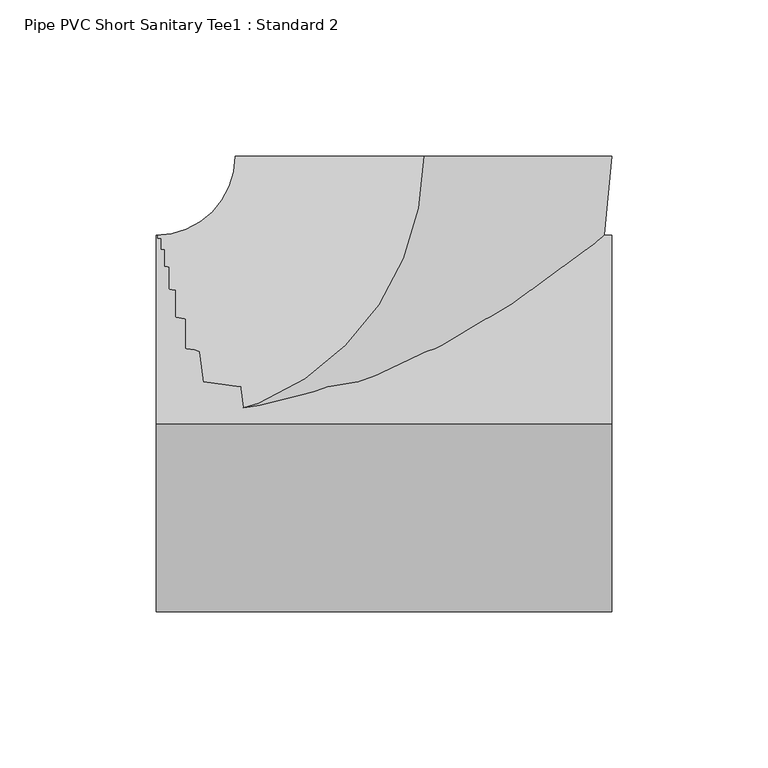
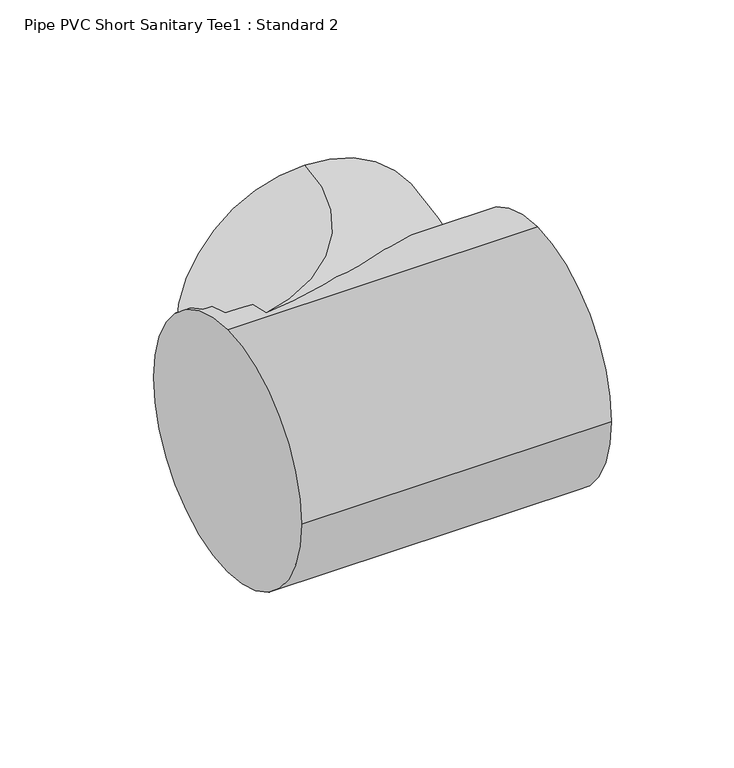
"""IFC4 building model written with IfcOpenShell, lengths in millimetres: pipe fitting geometry, Pipe PVC Short Sanitary Tee1 : Standard 2."""

import ifcopenshell
import ifcopenshell.guid

model = None  # the IFC model being written
_history = None  # IfcOwnerHistory: only IFC2X3 demands one
_inside = {}  # id of a spatial element -> (the spatial element, [elements in it])
_under = {}  # id of a project, library or spatial element -> (it, [spatial elements below it])
_declared = {}  # id of a project -> (the project, [libraries it declares])
_typed = {}  # id of a type object -> (the type object, [elements of that type])
_made_of = {}  # id of a material, layer set ... -> (it, [elements and type objects made of it])


def new_model(schema):
    """Start an empty IFC model of exactly this schema.

    Asked for "IFC4X3", IfcOpenShell would pick the latest addendum, in which some entities
    have other attributes; the version numbers below select the first issue.
    IFC2X3 requires an IfcOwnerHistory on every rooted entity: one is made here for all.
    """
    global model, _history
    if schema == "IFC4X3":
        model = ifcopenshell.file(schema_version=(4, 3, 0, 0))
    else:
        model = ifcopenshell.file(schema=schema)
    _inside.clear()
    _under.clear()
    _declared.clear()
    _typed.clear()
    _made_of.clear()
    _history = None
    if model.schema == "IFC2X3":
        org = make("IfcOrganization", Name="unknown")
        user = make(
            "IfcPersonAndOrganization",
            ThePerson=make("IfcPerson", FamilyName="unknown"),
            TheOrganization=org,
        )
        app = make(
            "IfcApplication",
            ApplicationDeveloper=org,
            Version="unknown",
            ApplicationFullName="unknown",
            ApplicationIdentifier="unknown",
        )
        _history = make(
            "IfcOwnerHistory",
            OwningUser=user,
            OwningApplication=app,
            ChangeAction="ADDED",
            CreationDate=0,
        )
    return model


def make(cls, **values):
    """One entity of the class cls with the attributes given. An attribute that is None is left unset."""
    return model.create_entity(
        cls, **{name: value for name, value in values.items() if value is not None}
    )


def rooted(cls, **values):
    """An entity with a GlobalId (a new one), such as an element, a storey or a relation."""
    return make(cls, GlobalId=ifcopenshell.guid.new(), OwnerHistory=_history, **values)


def si_unit(unit_type, name, prefix=None):
    """IfcSIUnit, for example si_unit("LENGTHUNIT", "METRE", prefix="MILLI")."""
    return make("IfcSIUnit", UnitType=unit_type, Prefix=prefix, Name=name)


def assignment(units):
    """IfcUnitAssignment: the units of a project."""
    return None if units is None else make("IfcUnitAssignment", Units=units)


def point(xyz):
    """IfcCartesianPoint."""
    return None if xyz is None else make("IfcCartesianPoint", Coordinates=xyz)


def direction(xyz):
    """IfcDirection."""
    return None if xyz is None else make("IfcDirection", DirectionRatios=xyz)


def frame(location, z_axis=None, x_axis=None):
    """IfcAxis2Placement3D, a coordinate frame: its origin and axes. An axis left out is left unset."""
    return make(
        "IfcAxis2Placement3D",
        Location=point(location),
        Axis=direction(z_axis),
        RefDirection=direction(x_axis),
    )


def frame_2d(location, x_axis=None):
    """IfcAxis2Placement2D, a coordinate frame in the plane: its origin and x axis."""
    return make(
        "IfcAxis2Placement2D", Location=point(location), RefDirection=direction(x_axis)
    )


def origin():
    """The frame at (0, 0, 0) with its axes left unset."""
    return frame((0.0, 0.0, 0.0))


def origin_2d():
    """The frame at (0, 0) in the plane with its x axis left unset."""
    return frame_2d((0.0, 0.0))


def place(relative_to, where):
    """IfcLocalPlacement: puts the frame where relative to a parent placement (None: the world)."""
    return make(
        "IfcLocalPlacement", PlacementRelTo=relative_to, RelativePlacement=where
    )


def context(
    kind, dimensions, precision=None, world=None, true_north=None, identifier=None
):
    """IfcGeometricRepresentationContext, for example the 3D "Model" context."""
    return make(
        "IfcGeometricRepresentationContext",
        ContextIdentifier=identifier,
        ContextType=kind,
        CoordinateSpaceDimension=dimensions,
        Precision=precision,
        WorldCoordinateSystem=world,
        TrueNorth=true_north,
    )


def project(units=None, contexts=None):
    """IfcProject with its units and contexts."""
    return rooted(
        "IfcProject",
        Name="project",
        RepresentationContexts=contexts,
        UnitsInContext=assignment(units),
    )


def spatial(cls, under=None, at=None, **own):
    """A site, building, storey or space (cls), placed at a placement, below another one or the project."""
    s = rooted(cls, ObjectPlacement=at, **own)
    if under is not None:
        _under.setdefault(under.id(), (under, []))[1].append(s)
    return s


def circle_curve(where, radius):
    """IfcCircle in the frame where."""
    return make("IfcCircle", Position=where, Radius=radius)


def ellipse_curve(where, semi_axis1, semi_axis2):
    """IfcEllipse in the frame where."""
    return make(
        "IfcEllipse", Position=where, SemiAxis1=semi_axis1, SemiAxis2=semi_axis2
    )


def trimmed(basis, trim1, trim2, sense, master):
    """IfcTrimmedCurve: the piece of a basis curve between two trims."""
    return make(
        "IfcTrimmedCurve",
        BasisCurve=basis,
        Trim1=trim1,
        Trim2=trim2,
        SenseAgreement=sense,
        MasterRepresentation=master,
    )


def segment(curve, same_sense, transition):
    """IfcCompositeCurveSegment."""
    return make(
        "IfcCompositeCurveSegment",
        Transition=transition,
        SameSense=same_sense,
        ParentCurve=curve,
    )


def composite_curve(segments, self_intersect=None):
    """IfcCompositeCurve: segments joined end to end."""
    return make("IfcCompositeCurve", Segments=segments, SelfIntersect=self_intersect)


def outline(outer, holes=None, kind="AREA"):
    """IfcArbitraryClosedProfileDef: a profile drawn as a closed curve; with holes, ...WithVoids."""
    if holes is None:
        return make("IfcArbitraryClosedProfileDef", ProfileType=kind, OuterCurve=outer)
    return make(
        "IfcArbitraryProfileDefWithVoids",
        ProfileType=kind,
        OuterCurve=outer,
        InnerCurves=holes,
    )


def extrude(swept, where, along, depth):
    """IfcExtrudedAreaSolid: the profile swept, set in the frame where, extruded along a direction by depth."""
    return make(
        "IfcExtrudedAreaSolid",
        SweptArea=swept,
        Position=where,
        ExtrudedDirection=direction(along),
        Depth=depth,
    )


def shape(context_of_items, identifier, shape_type, items):
    """IfcShapeRepresentation: the items that make up one representation, for example the "Body"."""
    return make(
        "IfcShapeRepresentation",
        ContextOfItems=context_of_items,
        RepresentationIdentifier=identifier,
        RepresentationType=shape_type,
        Items=items,
    )


def source(mapping_origin, context_of_items, identifier, shape_type, items):
    """IfcRepresentationMap: a shape defined once, which mapped items show again and again."""
    return make(
        "IfcRepresentationMap",
        MappingOrigin=mapping_origin,
        MappedRepresentation=shape(context_of_items, identifier, shape_type, items),
    )


def transform(
    local_origin,
    x_axis=None,
    y_axis=None,
    z_axis=None,
    scale=None,
    scale2=None,
    scale3=None,
    uniform=True,
):
    """IfcCartesianTransformationOperator3D, or its non-uniform kind. x_axis, y_axis, z_axis: its Axis1, 2, 3."""
    if uniform:
        return make(
            "IfcCartesianTransformationOperator3D",
            Axis1=direction(x_axis),
            Axis2=direction(y_axis),
            LocalOrigin=point(local_origin),
            Scale=scale,
            Axis3=direction(z_axis),
        )
    return make(
        "IfcCartesianTransformationOperator3DnonUniform",
        Axis1=direction(x_axis),
        Axis2=direction(y_axis),
        LocalOrigin=point(local_origin),
        Scale=scale,
        Axis3=direction(z_axis),
        Scale2=scale2,
        Scale3=scale3,
    )


def mapped(mapping_source, mapping_target):
    """IfcMappedItem: shows the shape of a source again, moved by a transform."""
    return make(
        "IfcMappedItem", MappingSource=mapping_source, MappingTarget=mapping_target
    )


def made_of(thing, what):
    """Note that an element or type object is made of a material, layer set ...; save() writes the relation."""
    if what is not None:
        _made_of.setdefault(what.id(), (what, []))[1].append(thing)
    return thing


def element(
    cls,
    number,
    at=None,
    inside=None,
    cuts=None,
    type_object=None,
    material=None,
    context=None,
    identifier="Body",
    shape_type=None,
    held_by="IfcProductDefinitionShape",
    body=None,
    shapes=None,
    **own,
):
    """One element of the class cls, such as IfcWall. Its Tag is "e" and its number.

    at: its placement. inside: the storey or other place that contains it. cuts: it is an
    opening in that element (IfcRelVoidsElement). A single representation is given by context,
    identifier, shape_type and body (its items); several are given by shapes. held_by: the class
    of the entity that holds the representations. save() writes the other relations.
    """
    e = rooted(cls, Tag="e%d" % number, ObjectPlacement=at, **own)
    if body is not None:
        shapes = [shape(context, identifier, shape_type, body)]
    if shapes is not None:
        e.Representation = make(held_by, Representations=shapes)
    if inside is not None:
        _inside.setdefault(inside.id(), (inside, []))[1].append(e)
    if cuts is not None:
        rooted(
            "IfcRelVoidsElement", RelatingBuildingElement=cuts, RelatedOpeningElement=e
        )
    if type_object is not None:
        _typed.setdefault(type_object.id(), (type_object, []))[1].append(e)
    return made_of(e, material)


def aggregate(whole, parts):
    """IfcRelAggregates: a whole, such as a stair, and the parts it consists of."""
    return rooted("IfcRelAggregates", RelatingObject=whole, RelatedObjects=parts)


def save(model, path):
    """Write the relations noted so far, then the file.

    IfcRelAggregates (storeys below a building ...), IfcRelContainedInSpatialStructure (elements
    in a storey), IfcRelDefinesByType, IfcRelAssociatesMaterial and IfcRelDeclares: one each for
    every whole, place, type object, material and project.
    """
    for whole, parts in _under.values():
        aggregate(whole, parts)
    for where, things in _inside.values():
        rooted(
            "IfcRelContainedInSpatialStructure",
            RelatedElements=things,
            RelatingStructure=where,
        )
    for kind, things in _typed.values():
        rooted("IfcRelDefinesByType", RelatedObjects=things, RelatingType=kind)
    for what, things in _made_of.values():
        rooted("IfcRelAssociatesMaterial", RelatedObjects=things, RelatingMaterial=what)
    for by, libraries in _declared.values():
        rooted("IfcRelDeclares", RelatingContext=by, RelatedDefinitions=libraries)
    model.write(path)


def plane_surface(at):
    """IfcPlane: the flat surface through the origin of the frame at, square to its z axis."""
    return make("IfcPlane", Position=at)


def revolved_surface(curve, axis_point, axis_direction):
    """IfcSurfaceOfRevolution: the curve turned about the line through axis_point along axis_direction."""
    return make(
        "IfcSurfaceOfRevolution",
        SweptCurve=make("IfcArbitraryOpenProfileDef", ProfileType="CURVE", Curve=curve),
        AxisPosition=make("IfcAxis1Placement", Location=point(axis_point), Axis=direction(axis_direction)),
    )


def advanced_brep(points, edges, surfaces, faces):
    """IfcAdvancedBrep: a solid bounded by faces that lie on surfaces and meet in shared edges.

    An edge is (start, end): straight between two places in points (the first is 0);
    or (start, end, curve); or (start, end, curve, False) where it runs against its curve.
    A face is (place in surfaces, loops), or (place, loops, False) where it looks against
    its surface's normal. A loop lists edges by number (the first is 1), with a minus sign
    where the edge is run from its end to its start. The first loop is the outer one.
    """
    corners = [point(p) for p in points]
    vertices = [make("IfcVertexPoint", VertexGeometry=c) for c in corners]
    made = []
    for start, end, *more in edges:
        made.append(
            make(
                "IfcEdgeCurve",
                EdgeStart=vertices[start],
                EdgeEnd=vertices[end],
                EdgeGeometry=more[0] if more else make("IfcPolyline", Points=[corners[start], corners[end]]),
                SameSense=more[1] if len(more) > 1 else True,
            )
        )
    hull = []
    for where, loops, *sense in faces:
        bounds = []
        for j, loop in enumerate(loops):
            ring = [make("IfcOrientedEdge", EdgeElement=made[abs(k) - 1], Orientation=k > 0) for k in loop]
            bounds.append(
                make(
                    "IfcFaceOuterBound" if j == 0 else "IfcFaceBound",
                    Bound=make("IfcEdgeLoop", EdgeList=ring),
                    Orientation=True,
                )
            )
        hull.append(make("IfcAdvancedFace", Bounds=bounds, FaceSurface=surfaces[where], SameSense=sense[0] if sense else True))
    return make("IfcAdvancedBrep", Outer=make("IfcClosedShell", CfsFaces=hull))


def pipe_pvc_short_sanitary_tee1_standard_2_5010286e(model_context):
    return source(origin(), model_context, "Body", "SolidModel", [
        extrude(outline(composite_curve([segment(trimmed(circle_curve(origin_2d(), 60.325), [point((0.0, 60.325))], [point((60.325, 0.0))], False, "CARTESIAN"), True, "CONTINUOUS"), segment(trimmed(circle_curve(origin_2d(), 60.325), [point((60.325, 0.0))], [point((0.0, -60.325))], False, "CARTESIAN"), True, "CONTINUOUS"), segment(trimmed(circle_curve(origin_2d(), 60.325), [point((0.0, -60.325))], [point((-60.325, 0.0))], False, "CARTESIAN"), True, "CONTINUOUS"), segment(trimmed(circle_curve(origin_2d(), 60.325), [point((-60.325, 0.0))], [point((0.0, 60.325))], False, "CARTESIAN"), True, "CONTINUOUS")], self_intersect=False)), frame((-85.7149946, 0.0, 0.0), z_axis=(1.0, 0.0, 0.0), x_axis=(0.0, 1.0, 0.0)), (0.0, 0.0, 1.0), 146.0499994),
        advanced_brep(
        [(-85.7149946, 0.0, 60.325), (-85.7149946, 60.325, 0.0), (-85.7149946, 0.0, -60.325), (-85.7149946, -60.325, 0.0), (0.0100048, 85.7149941, 60.325), (60.3350044, 85.7079528, 0.0), (0.0100048, 85.7149941, -60.325), (-60.3149948, 85.7220353, 0.0)],
        [
            (0, 1, circle_curve(frame((-85.7149946, 0.0, 0.0), z_axis=(-1.0, 0.0, 0.0), x_axis=(0.0, 1.0, 0.0)), 60.325)),
            (1, 2, circle_curve(frame((-85.7149946, 0.0, 0.0), z_axis=(-1.0, 0.0, 0.0), x_axis=(0.0, 1.0, 0.0)), 60.325)),
            (2, 3, circle_curve(frame((-85.7149946, 0.0, 0.0), z_axis=(-1.0, 0.0, 0.0), x_axis=(0.0, 1.0, 0.0)), 60.325)),
            (3, 0, circle_curve(frame((-85.7149946, 0.0, 0.0), z_axis=(-1.0, 0.0, 0.0), x_axis=(0.0, 1.0, 0.0)), 60.325)),
            (4, 5, circle_curve(frame((0.0100048, 85.7149941, 0.0), z_axis=(0.00011672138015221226, 0.9999999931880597, 0.0), x_axis=(-0.9999999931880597, 0.00011672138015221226, 0.0)), 60.325)),
            (5, 6, circle_curve(frame((0.0100048, 85.7149941, 0.0), z_axis=(0.00011672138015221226, 0.9999999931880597, 0.0), x_axis=(-0.9999999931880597, 0.00011672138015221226, 0.0)), 60.325)),
            (6, 7, circle_curve(frame((0.0100048, 85.7149941, 0.0), z_axis=(0.00011672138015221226, 0.9999999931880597, 0.0), x_axis=(-0.9999999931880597, 0.00011672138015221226, 0.0)), 60.325)),
            (7, 4, circle_curve(frame((0.0100048, 85.7149941, 0.0), z_axis=(0.00011672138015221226, 0.9999999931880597, 0.0), x_axis=(-0.9999999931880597, 0.00011672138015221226, 0.0)), 60.325)),
            (7, 1, circle_curve(frame((-85.7149946, 85.725, 0.0), z_axis=(0.0, 0.0, -1.0), x_axis=(0.0, -1.0, 0.0)), 25.4)),
            (0, 4, circle_curve(frame((-85.7149946, 85.725, 60.325), z_axis=(0.0, 0.0, 1.0), x_axis=(0.0, -1.0, 0.0)), 85.725)),
            (6, 2, circle_curve(frame((-85.7149946, 85.725, -60.325), z_axis=(0.0, 0.0, -1.0), x_axis=(0.0, -1.0, 0.0)), 85.725)),
            (5, 3, circle_curve(frame((-85.7149946, 85.725, 0.0), z_axis=(0.0, 0.0, -1.0), x_axis=(0.0, -1.0, 0.0)), 146.05)),
        ],
        [
            plane_surface(frame((-85.7149946, 0.0, 0.0), z_axis=(-1.0, 0.0, 0.0), x_axis=(0.0, 0.0, 1.0))),
            plane_surface(frame((0.0100048, 85.7149941, 0.0), z_axis=(0.00011672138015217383, 0.9999999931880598, 0.0), x_axis=(0.0, 0.0, 1.0))),
            revolved_surface(trimmed(ellipse_curve(frame((-85.7149946, 0.0, 0.0), z_axis=(-1.0, 0.0, 0.0), x_axis=(0.0, 1.0, 0.0)), 60.325, 60.325), [point((-85.7149946, 0.0, 60.325))], [point((-85.7149946, 60.325, 0.0))], True, "CARTESIAN"), (-85.7149946, 85.725, 0.0), (0.0, 0.0, 1.0)),
            revolved_surface(trimmed(ellipse_curve(frame((-85.7149946, 0.0, 0.0), z_axis=(-1.0, 0.0, 0.0), x_axis=(0.0, 1.0, 0.0)), 60.325, 60.325), [point((-85.7149946, 60.325, 0.0))], [point((-85.7149946, 0.0, -60.325))], True, "CARTESIAN"), (-85.7149946, 85.725, 0.0), (0.0, 0.0, 1.0)),
            revolved_surface(trimmed(ellipse_curve(frame((-85.7149946, 0.0, 0.0), z_axis=(-1.0, 0.0, 0.0), x_axis=(0.0, 1.0, 0.0)), 60.325, 60.325), [point((-85.7149946, 0.0, -60.325))], [point((-85.7149946, -60.325, 0.0))], True, "CARTESIAN"), (-85.7149946, 85.725, 0.0), (0.0, 0.0, 1.0)),
            revolved_surface(trimmed(ellipse_curve(frame((-85.7149946, 0.0, 0.0), z_axis=(-1.0, 0.0, 0.0), x_axis=(0.0, 1.0, 0.0)), 60.325, 60.325), [point((-85.7149946, -60.325, 0.0))], [point((-85.7149946, 0.0, 60.325))], True, "CARTESIAN"), (-85.7149946, 85.725, 0.0), (0.0, 0.0, 1.0)),
        ],
        [
            (0, [[1, 2, 3, 4]]),
            (1, [[5, 6, 7, 8]]),
            (2, [[9, -1, 10, -8]]),
            (3, [[11, -2, -9, -7]]),
            (4, [[12, -3, -11, -6]]),
            (5, [[-10, -4, -12, -5]]),
        ],
    ),
        advanced_brep(
        [(-85.7149946, 0.0, 60.325), (-85.7149946, 60.325, 0.0), (-85.7149946, 0.0, -60.325), (-85.7149946, -60.325, 0.0), (0.0100048, 85.7149941, 60.325), (60.3350044, 85.7079528, 0.0), (0.0100048, 85.7149941, -60.325), (-60.3149948, 85.7220353, 0.0)],
        [
            (0, 1, circle_curve(frame((-85.7149946, 0.0, 0.0), z_axis=(-1.0, 0.0, 0.0), x_axis=(0.0, 1.0, 0.0)), 60.325)),
            (1, 2, circle_curve(frame((-85.7149946, 0.0, 0.0), z_axis=(-1.0, 0.0, 0.0), x_axis=(0.0, 1.0, 0.0)), 60.325)),
            (2, 3, circle_curve(frame((-85.7149946, 0.0, 0.0), z_axis=(-1.0, 0.0, 0.0), x_axis=(0.0, 1.0, 0.0)), 60.325)),
            (3, 0, circle_curve(frame((-85.7149946, 0.0, 0.0), z_axis=(-1.0, 0.0, 0.0), x_axis=(0.0, 1.0, 0.0)), 60.325)),
            (4, 5, circle_curve(frame((0.0100048, 85.7149941, 0.0), z_axis=(0.00011672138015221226, 0.9999999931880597, 0.0), x_axis=(-0.9999999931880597, 0.00011672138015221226, 0.0)), 60.325)),
            (5, 6, circle_curve(frame((0.0100048, 85.7149941, 0.0), z_axis=(0.00011672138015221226, 0.9999999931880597, 0.0), x_axis=(-0.9999999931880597, 0.00011672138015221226, 0.0)), 60.325)),
            (6, 7, circle_curve(frame((0.0100048, 85.7149941, 0.0), z_axis=(0.00011672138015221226, 0.9999999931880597, 0.0), x_axis=(-0.9999999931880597, 0.00011672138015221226, 0.0)), 60.325)),
            (7, 4, circle_curve(frame((0.0100048, 85.7149941, 0.0), z_axis=(0.00011672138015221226, 0.9999999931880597, 0.0), x_axis=(-0.9999999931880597, 0.00011672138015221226, 0.0)), 60.325)),
            (7, 1, circle_curve(frame((-85.7149946, 85.725, 0.0), z_axis=(0.0, 0.0, -1.0), x_axis=(0.0, -1.0, 0.0)), 25.4)),
            (0, 4, circle_curve(frame((-85.7149946, 85.725, 60.325), z_axis=(0.0, 0.0, 1.0), x_axis=(0.0, -1.0, 0.0)), 85.725)),
            (6, 2, circle_curve(frame((-85.7149946, 85.725, -60.325), z_axis=(0.0, 0.0, -1.0), x_axis=(0.0, -1.0, 0.0)), 85.725)),
            (5, 3, circle_curve(frame((-85.7149946, 85.725, 0.0), z_axis=(0.0, 0.0, -1.0), x_axis=(0.0, -1.0, 0.0)), 146.05)),
        ],
        [
            plane_surface(frame((-85.7149946, 0.0, 0.0), z_axis=(-1.0, 0.0, 0.0), x_axis=(0.0, 0.0, 1.0))),
            plane_surface(frame((0.0100048, 85.7149941, 0.0), z_axis=(0.00011672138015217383, 0.9999999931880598, 0.0), x_axis=(0.0, 0.0, 1.0))),
            revolved_surface(trimmed(ellipse_curve(frame((-85.7149946, 0.0, 0.0), z_axis=(-1.0, 0.0, 0.0), x_axis=(0.0, 1.0, 0.0)), 60.325, 60.325), [point((-85.7149946, 0.0, 60.325))], [point((-85.7149946, 60.325, 0.0))], True, "CARTESIAN"), (-85.7149946, 85.725, 0.0), (0.0, 0.0, 1.0)),
            revolved_surface(trimmed(ellipse_curve(frame((-85.7149946, 0.0, 0.0), z_axis=(-1.0, 0.0, 0.0), x_axis=(0.0, 1.0, 0.0)), 60.325, 60.325), [point((-85.7149946, 60.325, 0.0))], [point((-85.7149946, 0.0, -60.325))], True, "CARTESIAN"), (-85.7149946, 85.725, 0.0), (0.0, 0.0, 1.0)),
            revolved_surface(trimmed(ellipse_curve(frame((-85.7149946, 0.0, 0.0), z_axis=(-1.0, 0.0, 0.0), x_axis=(0.0, 1.0, 0.0)), 60.325, 60.325), [point((-85.7149946, 0.0, -60.325))], [point((-85.7149946, -60.325, 0.0))], True, "CARTESIAN"), (-85.7149946, 85.725, 0.0), (0.0, 0.0, 1.0)),
            revolved_surface(trimmed(ellipse_curve(frame((-85.7149946, 0.0, 0.0), z_axis=(-1.0, 0.0, 0.0), x_axis=(0.0, 1.0, 0.0)), 60.325, 60.325), [point((-85.7149946, -60.325, 0.0))], [point((-85.7149946, 0.0, 60.325))], True, "CARTESIAN"), (-85.7149946, 85.725, 0.0), (0.0, 0.0, 1.0)),
        ],
        [
            (0, [[1, 2, 3, 4]]),
            (1, [[5, 6, 7, 8]]),
            (2, [[9, -1, 10, -8]]),
            (3, [[11, -2, -9, -7]]),
            (4, [[12, -3, -11, -6]]),
            (5, [[-10, -4, -12, -5]]),
        ],
    ),
        extrude(outline(composite_curve([segment(trimmed(circle_curve(origin_2d(), 60.325), [point((0.0, 60.325))], [point((60.325, 0.0))], False, "CARTESIAN"), True, "CONTINUOUS"), segment(trimmed(circle_curve(origin_2d(), 60.325), [point((60.325, 0.0))], [point((0.0, -60.325))], False, "CARTESIAN"), True, "CONTINUOUS"), segment(trimmed(circle_curve(origin_2d(), 60.325), [point((0.0, -60.325))], [point((-60.325, 0.0))], False, "CARTESIAN"), True, "CONTINUOUS"), segment(trimmed(circle_curve(origin_2d(), 60.325), [point((-60.325, 0.0))], [point((0.0, 60.325))], False, "CARTESIAN"), True, "CONTINUOUS")], self_intersect=False)), frame((-85.7149946, 0.0, 0.0), z_axis=(1.0, 0.0, 0.0), x_axis=(0.0, 1.0, 0.0)), (0.0, 0.0, 1.0), 146.0499994),
    ])


if __name__ == "__main__":
    model = new_model("IFC4")
    model_context = context("Model", 3, world=origin())
    ifc_project = project(units=[si_unit("LENGTHUNIT", "METRE", prefix="MILLI")], contexts=[model_context])
    site = spatial("IfcSite", under=ifc_project)
    building = spatial("IfcBuilding", under=site)
    placement = place(None, origin())
    pipe_pvc_short_sanitary_tee1_standard_2_shape = pipe_pvc_short_sanitary_tee1_standard_2_5010286e(model_context)
    element("IfcPipeFitting", 1, ObjectType="Pipe PVC Short Sanitary Tee1 : Standard 2", at=placement, inside=building, context=model_context, shape_type="MappedRepresentation", body=[
        mapped(pipe_pvc_short_sanitary_tee1_standard_2_shape, transform((0.0, 0.0, 0.0), x_axis=(1.0, 0.0, 0.0), y_axis=(0.0, 1.0, 0.0), z_axis=(0.0, 0.0, 1.0))),
    ])
    save(model, "model.ifc")
